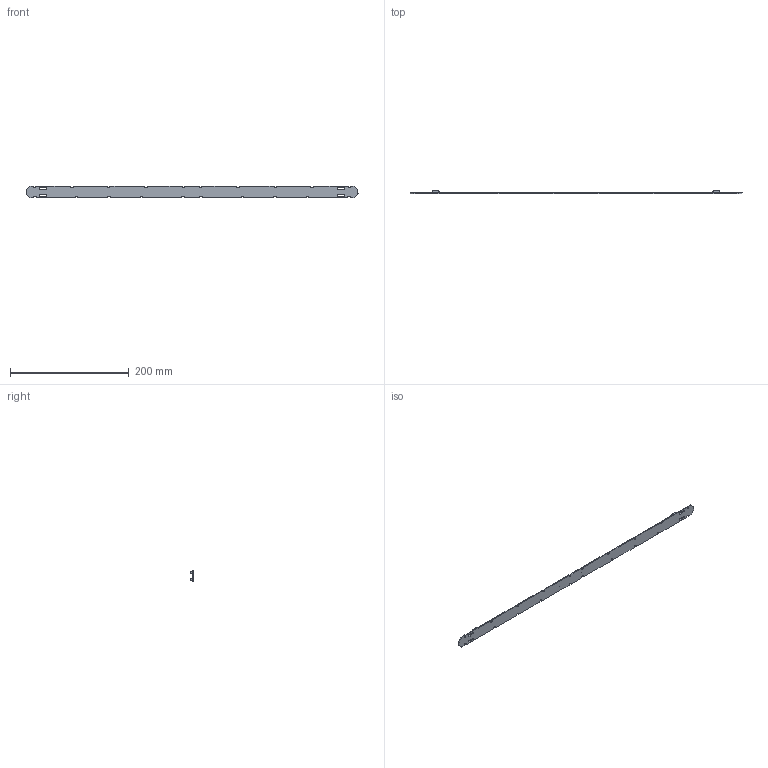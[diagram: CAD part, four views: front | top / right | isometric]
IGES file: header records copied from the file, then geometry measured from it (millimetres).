
Start section: SolidWorks IGES file using analytic representation for surfaces
Global section: file name: D:\ECTR_TEMP\OLQ-batchEngine\queue\temp\4162861swm000.igs; native system: SolidWorks 2017; preprocessor: SolidWorks 2017; author: SYSTEM; date: 200219.145103; units: millimetre
Bounding box: 559.5 x 5.55 x 20 mm (x, y, z)
Surface area: 27247.8 mm2 (no closed solid volume)
Topology: 0 solids, 0 shells, 2190 faces, 13032 edges, 13028 vertices
Faces by surface type: bspline 2006, revolution 184
